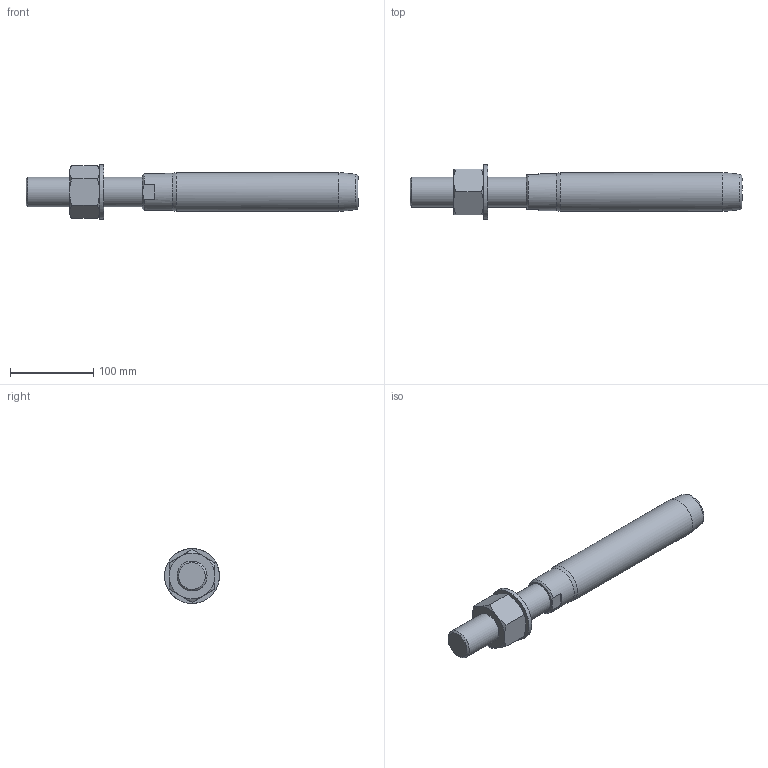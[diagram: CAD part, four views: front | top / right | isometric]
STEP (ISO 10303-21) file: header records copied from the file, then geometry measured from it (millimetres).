
FILE_DESCRIPTION(/* description */ (''),/* implementation_level */ '2;1');
FILE_NAME(/* name */ 'FLT 24_42CrMo4',/* time_stamp */ '2023-05-23T15:57:52+02:00',/* author */ (''),/* organization */ (''),/* preprocessor_version */ 'ST-DEVELOPER v16.5',/* originating_system */ 'Rhino 7.22',/* authorisation */ '');
FILE_SCHEMA (('CONFIG_CONTROL_DESIGN'));
Length unit declared in the file: millimetre
Products named in the file (1): Document
Bounding box: 399 x 65.93 x 65.98 mm (x, y, z)
Volume: 651527.3 mm3; surface area: 76066.8 mm2
Topology: 3 solids, 3 shells, 42 faces, 103 edges, 68 vertices
Faces by surface type: bspline 19, plane 17, cylinder 6
Full cylindrical faces by diameter (mm): 32.752 x1, 36 x1, 37 x1, 44.5 x1, 46.8 x1, 66 x1
Entity records: 1563 total; most frequent: CARTESIAN_POINT 861, ORIENTED_EDGE 206, EDGE_CURVE 103, VERTEX_POINT 68, EDGE_LOOP 47, ADVANCED_FACE 42, FACE_OUTER_BOUND 42, DIRECTION 27
